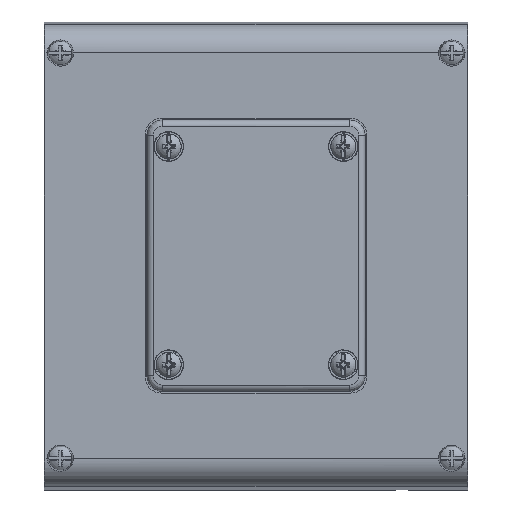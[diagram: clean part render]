
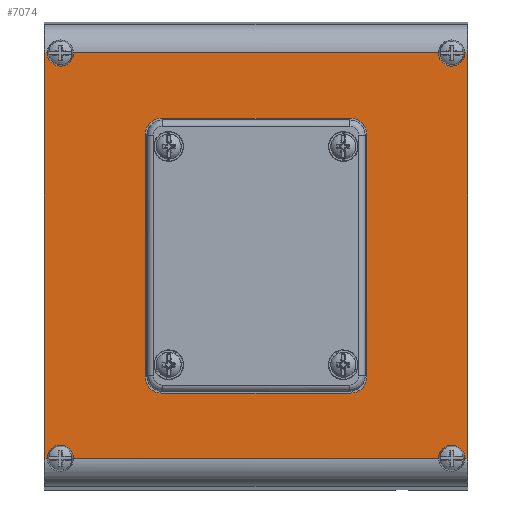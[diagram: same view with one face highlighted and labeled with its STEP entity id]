
A CAD part, top view. The second image highlights one B-rep face of the part: STEP entity #7074.
In plain terms, the highlighted planar face has unit normal (0, 0, 1).
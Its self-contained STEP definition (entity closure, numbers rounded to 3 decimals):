
#2407=LINE('',#63409,#4244);
#2408=LINE('',#63422,#4245);
#2409=LINE('',#63427,#4246);
#2410=LINE('',#63429,#4247);
#2411=LINE('',#63434,#4248);
#2412=LINE('',#63438,#4249);
#2413=LINE('',#63442,#4250);
#2414=LINE('',#63448,#4251);
#2415=LINE('',#63452,#4252);
#2416=LINE('',#63454,#4253);
#2417=LINE('',#63457,#4254);
#2418=LINE('',#63459,#4255);
#4244=VECTOR('',#34154,1.);
#4245=VECTOR('',#34155,1.);
#4246=VECTOR('',#34160,1.);
#4247=VECTOR('',#34163,1.);
#4248=VECTOR('',#34166,1.);
#4249=VECTOR('',#34169,1.);
#4250=VECTOR('',#34172,1.);
#4251=VECTOR('',#34177,1.);
#4252=VECTOR('',#34180,1.);
#4253=VECTOR('',#34181,1.);
#4254=VECTOR('',#34186,1.);
#4255=VECTOR('',#34187,1.);
#5141=PLANE('',#28365);
#5784=FACE_BOUND('',#10266,.T.);
#5785=FACE_BOUND('',#10267,.T.);
#7074=ADVANCED_FACE('',(#5784,#5785),#5141,.T.);
#10266=EDGE_LOOP('',(#16996,#16997,#16998,#16999,#17000,#17001,#17002,#17003));
#10267=EDGE_LOOP('',(#17004,#17005,#17006,#17007,#17008,#17009,#17010,#17011,
#17012,#17013,#17014,#17015));
#16996=ORIENTED_EDGE('',*,*,#24450,.F.);
#16997=ORIENTED_EDGE('',*,*,#24451,.F.);
#16998=ORIENTED_EDGE('',*,*,#24452,.F.);
#16999=ORIENTED_EDGE('',*,*,#24453,.F.);
#17000=ORIENTED_EDGE('',*,*,#24454,.F.);
#17001=ORIENTED_EDGE('',*,*,#24455,.F.);
#17002=ORIENTED_EDGE('',*,*,#24456,.F.);
#17003=ORIENTED_EDGE('',*,*,#24457,.F.);
#17004=ORIENTED_EDGE('',*,*,#24458,.F.);
#17005=ORIENTED_EDGE('',*,*,#24459,.T.);
#17006=ORIENTED_EDGE('',*,*,#24460,.F.);
#17007=ORIENTED_EDGE('',*,*,#24461,.T.);
#17008=ORIENTED_EDGE('',*,*,#24462,.F.);
#17009=ORIENTED_EDGE('',*,*,#24446,.F.);
#17010=ORIENTED_EDGE('',*,*,#24463,.F.);
#17011=ORIENTED_EDGE('',*,*,#24444,.F.);
#17012=ORIENTED_EDGE('',*,*,#24464,.F.);
#17013=ORIENTED_EDGE('',*,*,#24449,.F.);
#17014=ORIENTED_EDGE('',*,*,#24465,.T.);
#17015=ORIENTED_EDGE('',*,*,#24466,.T.);
#21048=VERTEX_POINT('',#63407);
#21049=VERTEX_POINT('',#63408);
#21050=VERTEX_POINT('',#63410);
#21051=VERTEX_POINT('',#63421);
#21052=VERTEX_POINT('',#63423);
#21053=VERTEX_POINT('',#63426);
#21054=VERTEX_POINT('',#63430);
#21055=VERTEX_POINT('',#63431);
#21056=VERTEX_POINT('',#63433);
#21057=VERTEX_POINT('',#63435);
#21058=VERTEX_POINT('',#63437);
#21059=VERTEX_POINT('',#63439);
#21060=VERTEX_POINT('',#63441);
#21061=VERTEX_POINT('',#63443);
#21062=VERTEX_POINT('',#63446);
#21063=VERTEX_POINT('',#63447);
#21064=VERTEX_POINT('',#63449);
#21065=VERTEX_POINT('',#63451);
#21066=VERTEX_POINT('',#63453);
#21067=VERTEX_POINT('',#63458);
#24444=EDGE_CURVE('',#21048,#21050,#2407,.T.);
#24446=EDGE_CURVE('',#21051,#21052,#2408,.T.);
#24449=EDGE_CURVE('',#21053,#21049,#2409,.T.);
#24450=EDGE_CURVE('',#21054,#21055,#2410,.T.);
#24451=EDGE_CURVE('',#21056,#21054,#26214,.T.);
#24452=EDGE_CURVE('',#21057,#21056,#2411,.T.);
#24453=EDGE_CURVE('',#21058,#21057,#26215,.T.);
#24454=EDGE_CURVE('',#21059,#21058,#2412,.T.);
#24455=EDGE_CURVE('',#21060,#21059,#26216,.T.);
#24456=EDGE_CURVE('',#21061,#21060,#2413,.T.);
#24457=EDGE_CURVE('',#21055,#21061,#26217,.T.);
#24458=EDGE_CURVE('',#21062,#21063,#26218,.T.);
#24459=EDGE_CURVE('',#21062,#21064,#2414,.T.);
#24460=EDGE_CURVE('',#21065,#21064,#26219,.T.);
#24461=EDGE_CURVE('',#21065,#21066,#2415,.T.);
#24462=EDGE_CURVE('',#21052,#21066,#2416,.T.);
#24463=EDGE_CURVE('',#21050,#21051,#26220,.T.);
#24464=EDGE_CURVE('',#21049,#21048,#26221,.T.);
#24465=EDGE_CURVE('',#21053,#21067,#2417,.T.);
#24466=EDGE_CURVE('',#21067,#21063,#2418,.T.);
#26214=CIRCLE('',#28357,5.3);
#26215=CIRCLE('',#28358,5.3);
#26216=CIRCLE('',#28359,5.3);
#26217=CIRCLE('',#28360,5.3);
#26218=CIRCLE('',#28361,4.209);
#26219=CIRCLE('',#28362,4.209);
#26220=CIRCLE('',#28363,4.209);
#26221=CIRCLE('',#28364,4.209);
#28357=AXIS2_PLACEMENT_3D('',#63432,#34164,#34165);
#28358=AXIS2_PLACEMENT_3D('',#63436,#34167,#34168);
#28359=AXIS2_PLACEMENT_3D('',#63440,#34170,#34171);
#28360=AXIS2_PLACEMENT_3D('',#63444,#34173,#34174);
#28361=AXIS2_PLACEMENT_3D('',#63445,#34175,#34176);
#28362=AXIS2_PLACEMENT_3D('',#63450,#34178,#34179);
#28363=AXIS2_PLACEMENT_3D('',#63455,#34182,#34183);
#28364=AXIS2_PLACEMENT_3D('',#63456,#34184,#34185);
#28365=AXIS2_PLACEMENT_3D('',#63460,#34188,#34189);
#34154=DIRECTION('',(1.,0.,0.));
#34155=DIRECTION('',(1.,0.,0.));
#34160=DIRECTION('',(1.,0.,0.));
#34163=DIRECTION('',(0.,1.,0.));
#34164=DIRECTION('',(0.,0.,1.));
#34165=DIRECTION('',(0.,1.,0.));
#34166=DIRECTION('',(1.,0.,0.));
#34167=DIRECTION('',(0.,0.,1.));
#34168=DIRECTION('',(0.,1.,0.));
#34169=DIRECTION('',(0.,-1.,0.));
#34170=DIRECTION('',(0.,0.,1.));
#34171=DIRECTION('',(0.,1.,0.));
#34172=DIRECTION('',(-1.,0.,0.));
#34173=DIRECTION('',(0.,0.,1.));
#34174=DIRECTION('',(0.,1.,0.));
#34175=DIRECTION('',(0.,0.,1.));
#34176=DIRECTION('',(1.,0.,0.));
#34177=DIRECTION('',(1.,0.,0.));
#34178=DIRECTION('',(0.,0.,1.));
#34179=DIRECTION('',(1.,0.,0.));
#34180=DIRECTION('',(1.,0.,0.));
#34181=DIRECTION('',(0.,-1.,0.));
#34182=DIRECTION('',(0.,0.,1.));
#34183=DIRECTION('',(1.,0.,0.));
#34184=DIRECTION('',(0.,0.,1.));
#34185=DIRECTION('',(1.,0.,0.));
#34186=DIRECTION('',(0.,-1.,0.));
#34187=DIRECTION('',(1.,0.,0.));
#34188=DIRECTION('',(0.,0.,1.));
#34189=DIRECTION('',(1.,0.,0.));
#63407=CARTESIAN_POINT('',(-58.542,-9.913,-100.));
#63408=CARTESIAN_POINT('',(-66.958,-9.913,-100.));
#63409=CARTESIAN_POINT('',(-68.,-9.913,-100.));
#63410=CARTESIAN_POINT('',(58.542,-9.913,-100.));
#63421=CARTESIAN_POINT('',(66.958,-9.913,-100.));
#63422=CARTESIAN_POINT('',(-68.,-9.913,-100.));
#63423=CARTESIAN_POINT('',(67.695,-9.913,-100.));
#63426=CARTESIAN_POINT('',(-67.695,-9.913,-100.));
#63427=CARTESIAN_POINT('',(-68.,-9.913,-100.));
#63429=CARTESIAN_POINT('',(35.6,-113.8,-100.));
#63430=CARTESIAN_POINT('',(35.6,-113.8,-100.));
#63431=CARTESIAN_POINT('',(35.6,-36.2,-100.));
#63432=CARTESIAN_POINT('',(30.3,-113.8,-100.));
#63433=CARTESIAN_POINT('',(30.3,-119.1,-100.));
#63434=CARTESIAN_POINT('',(-30.3,-119.1,-100.));
#63435=CARTESIAN_POINT('',(-30.3,-119.1,-100.));
#63436=CARTESIAN_POINT('',(-30.3,-113.8,-100.));
#63437=CARTESIAN_POINT('',(-35.6,-113.8,-100.));
#63438=CARTESIAN_POINT('',(-35.6,-36.2,-100.));
#63439=CARTESIAN_POINT('',(-35.6,-36.2,-100.));
#63440=CARTESIAN_POINT('',(-30.3,-36.2,-100.));
#63441=CARTESIAN_POINT('',(-30.3,-30.9,-100.));
#63442=CARTESIAN_POINT('',(30.3,-30.9,-100.));
#63443=CARTESIAN_POINT('',(30.3,-30.9,-100.));
#63444=CARTESIAN_POINT('',(30.3,-36.2,-100.));
#63445=CARTESIAN_POINT('',(-62.75,-140.,-100.));
#63446=CARTESIAN_POINT('',(-58.542,-140.087,-100.));
#63447=CARTESIAN_POINT('',(-66.958,-140.087,-100.));
#63448=CARTESIAN_POINT('',(-68.,-140.087,-100.));
#63449=CARTESIAN_POINT('',(58.542,-140.087,-100.));
#63450=CARTESIAN_POINT('',(62.75,-140.,-100.));
#63451=CARTESIAN_POINT('',(66.958,-140.087,-100.));
#63452=CARTESIAN_POINT('',(-68.,-140.087,-100.));
#63453=CARTESIAN_POINT('',(67.695,-140.087,-100.));
#63454=CARTESIAN_POINT('',(67.695,-75.,-100.));
#63455=CARTESIAN_POINT('',(62.75,-10.,-100.));
#63456=CARTESIAN_POINT('',(-62.75,-10.,-100.));
#63457=CARTESIAN_POINT('',(-67.695,-75.,-100.));
#63458=CARTESIAN_POINT('',(-67.695,-140.087,-100.));
#63459=CARTESIAN_POINT('',(-68.,-140.087,-100.));
#63460=CARTESIAN_POINT('',(-68.,-9.913,-100.));
